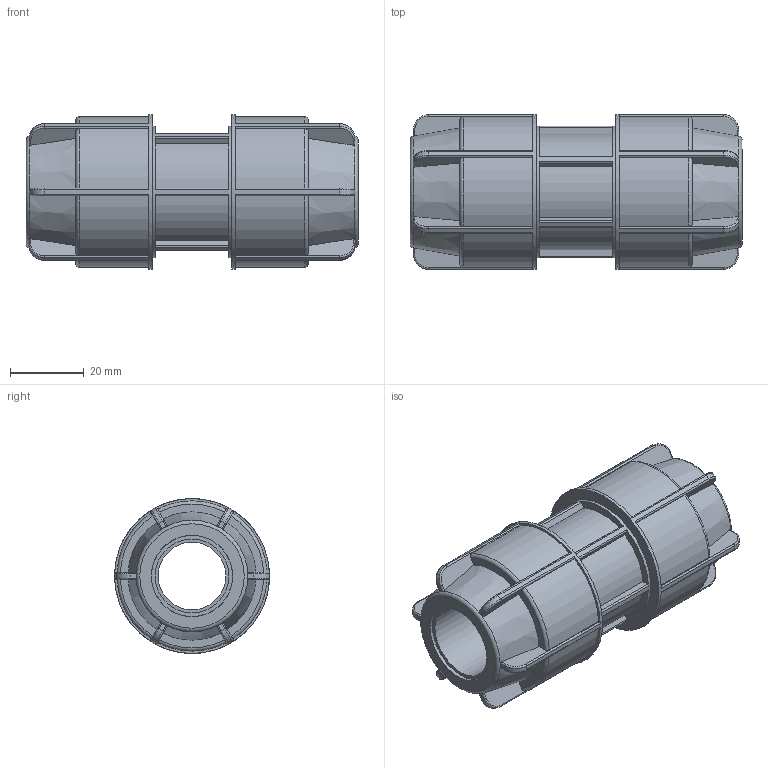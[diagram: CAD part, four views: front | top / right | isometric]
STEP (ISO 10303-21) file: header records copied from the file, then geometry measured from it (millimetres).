
FILE_DESCRIPTION(/* description */ ('PLASSON L.14 COUPLER (SILVER) 20'),/* implementation_level */ '2;1');
FILE_NAME(/* name */ 'C:\Dropbox\KIMPROJECTS-Inventor\99-16-3568-Processing\Silver Fittings\140100\140100020.ipt.stp',/* time_stamp */ '2018-06-12T15:52:40+03:00',/* author */ ('KIM'),/* organization */ (''),/* preprocessor_version */ 'ST-DEVELOPER v15.6',/* originating_system */ 'Autodesk Inventor 2015',/* authorisation */ '');
FILE_SCHEMA (('AUTOMOTIVE_DESIGN { 1 0 10303 214 3 1 1 }'));
Length unit declared in the file: millimetre
Products named in the file (1): 140100020
Bounding box: 90 x 42 x 42 mm (x, y, z)
Volume: 67383.4 mm3; surface area: 20650.5 mm2
Topology: 1 solids, 1 shells, 230 faces, 603 edges, 386 vertices
Faces by surface type: plane 92, cylinder 86, torus 26, bspline 24, cone 2
Full cylindrical faces by diameter (mm): 18.4 x1, 20 x2, 22 x2, 35.7 x1, 42 x2
Entity records: 7960 total; most frequent: CARTESIAN_POINT 2499, ORIENTED_EDGE 1164, DIRECTION 1110, EDGE_CURVE 582, AXIS2_PLACEMENT_3D 441, VERTEX_POINT 378, EDGE_LOOP 256, CIRCLE 234
